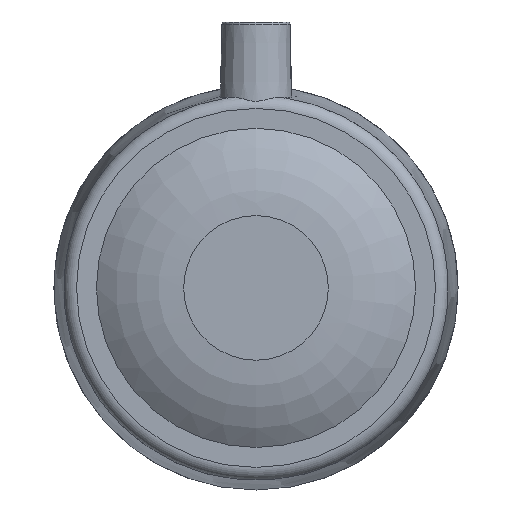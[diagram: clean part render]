
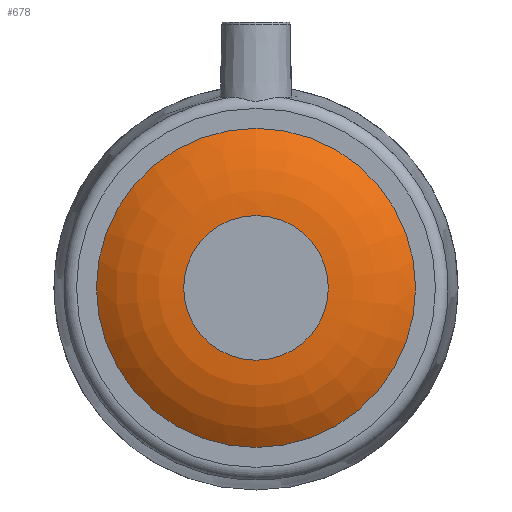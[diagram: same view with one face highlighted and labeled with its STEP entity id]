
A CAD part, left-side view. The second image highlights one B-rep face of the part: STEP entity #678.
In plain terms, the highlighted toroidal (fillet/blend) face has major radius 17 mm and minor radius 33.518 mm.
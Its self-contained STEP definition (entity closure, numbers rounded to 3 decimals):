
#18=DEGENERATE_TOROIDAL_SURFACE('',#795,17.,33.518,.T.);
#162=CIRCLE('',#794,17.);
#163=CIRCLE('',#796,37.5);
#304=ORIENTED_EDGE('',*,*,#385,.T.);
#305=ORIENTED_EDGE('',*,*,#384,.F.);
#384=EDGE_CURVE('',#444,#444,#162,.T.);
#385=EDGE_CURVE('',#445,#445,#163,.T.);
#444=VERTEX_POINT('',#1255);
#445=VERTEX_POINT('',#1258);
#530=EDGE_LOOP('',(#304));
#531=EDGE_LOOP('',(#305));
#616=FACE_BOUND('',#530,.T.);
#617=FACE_BOUND('',#531,.T.);
#678=ADVANCED_FACE('',(#616,#617),#18,.T.);
#794=AXIS2_PLACEMENT_3D('',#1254,#1001,#1002);
#795=AXIS2_PLACEMENT_3D('',#1256,#1003,#1004);
#796=AXIS2_PLACEMENT_3D('',#1257,#1005,#1006);
#1001=DIRECTION('',(-1.,0.,0.));
#1002=DIRECTION('',(0.,0.,1.));
#1003=DIRECTION('',(-1.,0.,0.));
#1004=DIRECTION('',(0.,0.,1.));
#1005=DIRECTION('',(-1.,0.,0.));
#1006=DIRECTION('',(0.,0.,1.));
#1254=CARTESIAN_POINT('',(-47.,0.,0.));
#1255=CARTESIAN_POINT('',(-47.,0.,17.));
#1256=CARTESIAN_POINT('',(-13.482,0.,0.));
#1257=CARTESIAN_POINT('',(-40.,0.,0.));
#1258=CARTESIAN_POINT('',(-40.,0.,37.5));
